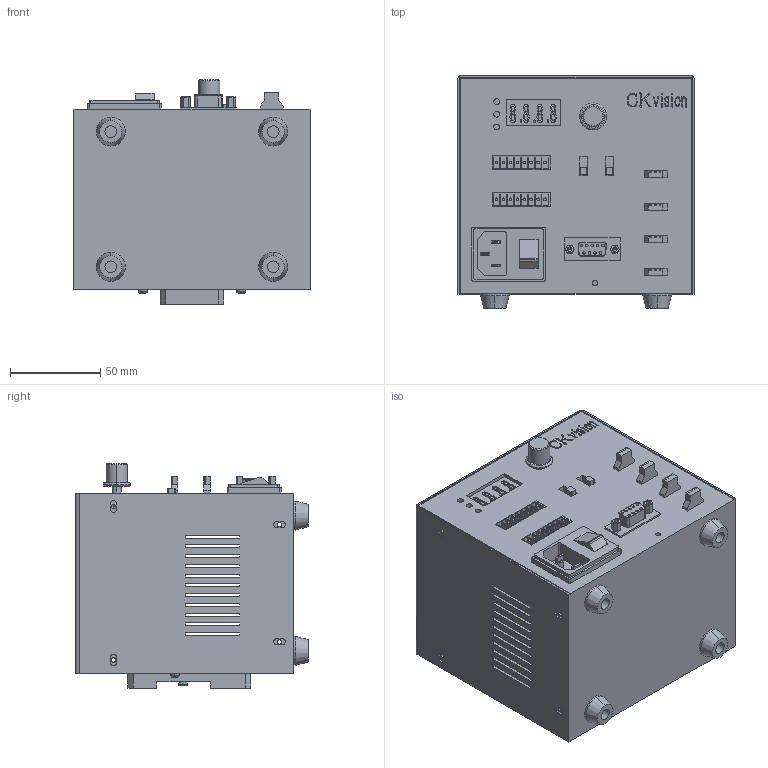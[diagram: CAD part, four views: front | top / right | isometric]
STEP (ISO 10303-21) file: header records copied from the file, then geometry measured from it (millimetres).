
FILE_DESCRIPTION (( 'STEP AP203' ), '1' );
FILE_NAME ('杅趼嫖埭諷秶ん.STEP', '2025-07-31T07:21:45', ( '' ), ( '' ), 'SwSTEP 2.0', 'SolidWorks 2022', '' );
FILE_SCHEMA (( 'CONFIG_CONTROL_DESIGN' ));
Length unit declared in the file: millimetre
Products named in the file (1): 数字光源控制器
Bounding box: 131 x 129 x 124.4 mm (x, y, z)
Volume: 419084.4 mm3; surface area: 167390.4 mm2
Topology: 3 solids, 3 shells, 1024 faces, 2583 edges, 1689 vertices
Faces by surface type: plane 657, cylinder 216, bspline 109, cone 28, torus 14
Entity records: 37258 total; most frequent: CARTESIAN_POINT 12869, ORIENTED_EDGE 5140, DIRECTION 4621, EDGE_CURVE 2570, LINE 1843, VECTOR 1843, VERTEX_POINT 1689, AXIS2_PLACEMENT_3D 1389
